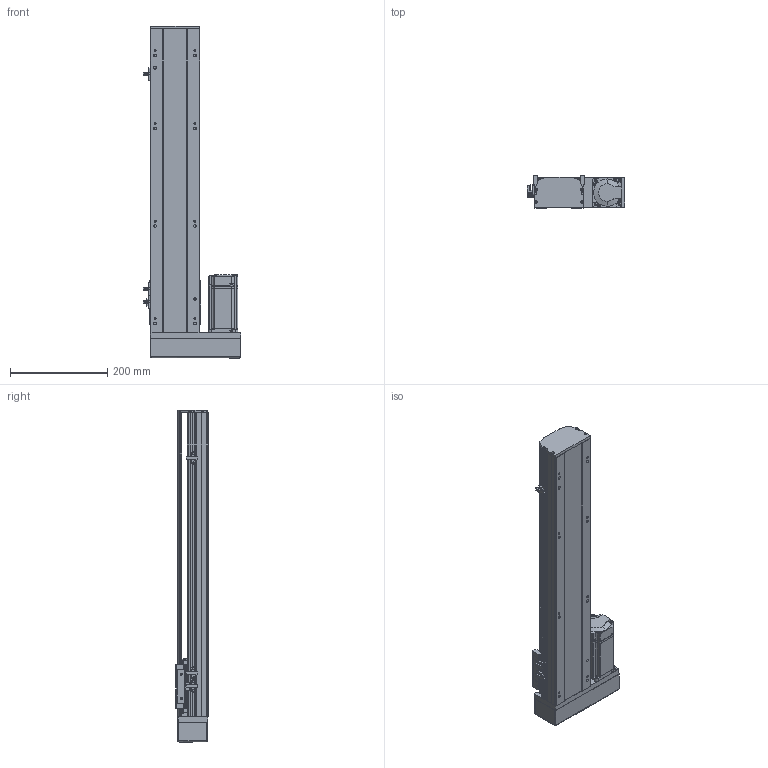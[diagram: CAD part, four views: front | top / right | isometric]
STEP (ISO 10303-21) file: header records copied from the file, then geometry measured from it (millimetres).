
FILE_DESCRIPTION (( 'STEP AP214' ), '1' );
FILE_NAME ('QTH10-450-BR-P20.STEP', '2021-11-13T14:39:36', ( '' ), ( '' ), 'SwSTEP 2.0', 'SolidWorks 2020', '' );
FILE_SCHEMA (( 'AUTOMOTIVE_DESIGN' ));
Length unit declared in the file: millimetre
Products named in the file (6): 葩璃 QTH10-BL-002 奻裔MZ-102A-02^QTH10-BR-P20; 葩璃 pm-t65-672^QTH10-BR-P20; 葩璃 侂狟400W^QTH10-BR-P20; 葩璃 QTH10-BC-005 賑釱MZ-102A-03 ^QTH10-BR-P20; 葩璃 QTH10-BR-001 菁釱MZ-102A-01^QTH10-BR-P20; QTH10-450-BR-P20
Assembly tree (7 placements, depth 2):
  QTH10-450-BR-P20
    葩璃 QTH10-BR-001 菁釱MZ-102A-01^QTH10-BR-P20
    葩璃 QTH10-BL-002 奻裔MZ-102A-02^QTH10-BR-P20
    葩璃 QTH10-BC-005 賑釱MZ-102A-03 ^QTH10-BR-P20
    葩璃 pm-t65-672^QTH10-BR-P20  x3
    葩璃 侂狟400W^QTH10-BR-P20
Bounding box: 199.2 x 66 x 681.5 mm (x, y, z)
Volume: 2000451.4 mm3; surface area: 524304.6 mm2
Topology: 12 solids, 12 shells, 1243 faces, 3324 edges, 2158 vertices
Faces by surface type: plane 735, cylinder 418, cone 64, bspline 26
Entity records: 33612 total; most frequent: CARTESIAN_POINT 6555, DIRECTION 5453, ORIENTED_EDGE 5296, EDGE_CURVE 2648, AXIS2_PLACEMENT_3D 1874, VERTEX_POINT 1734, LINE 1705, VECTOR 1705
